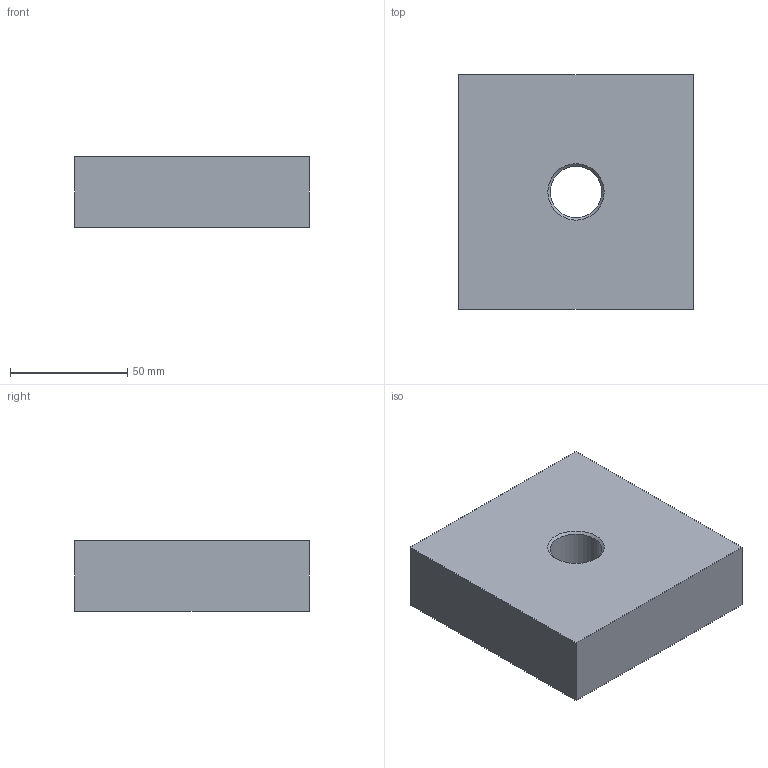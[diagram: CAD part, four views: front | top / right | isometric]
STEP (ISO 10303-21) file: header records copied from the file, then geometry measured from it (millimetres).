
FILE_DESCRIPTION(('Open CASCADE Model'),'2;1');
FILE_NAME('Open CASCADE Shape Model','2026-10-21T17:23:48',('Author'),( 'Open CASCADE'),'Open CASCADE STEP processor 7.9','Open CASCADE 7.9' ,'Unknown');
FILE_SCHEMA(('AUTOMOTIVE_DESIGN { 1 0 10303 214 1 1 1 1 }'));
Length unit declared in the file: millimetre
Products named in the file (1): Open CASCADE STEP translator 7.9 12
Bounding box: 100 x 100 x 30 mm (x, y, z)
Volume: 287514.5 mm3; surface area: 33684.2 mm2
Topology: 1 solids, 1 shells, 16 faces, 29 edges, 19 vertices
Faces by surface type: plane 10, cylinder 5, cone 1
Full cylindrical faces by diameter (mm): 10.2 x4, 22 x1
Entity records: 802 total; most frequent: CARTESIAN_POINT 153, DIRECTION 127, LINE 66, VECTOR 66, ORIENTED_EDGE 58, PCURVE 58, DEFINITIONAL_REPRESENTATION 58, EDGE_CURVE 29
